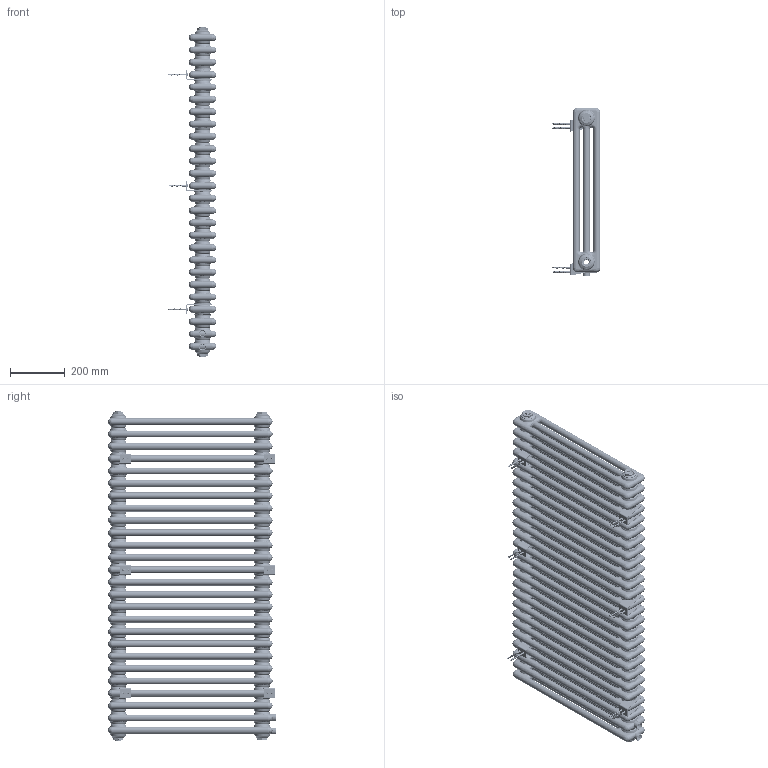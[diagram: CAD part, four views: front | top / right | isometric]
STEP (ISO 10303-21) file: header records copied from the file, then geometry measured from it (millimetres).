
FILE_DESCRIPTION(/* description */ (''),/* implementation_level */ '2;1');
FILE_NAME(/* name */ 'CL03 600x1190',/* time_stamp */ '2023-09-10T13:25:17+08:00',/* author */ (''),/* organization */ (''),/* preprocessor_version */ 'ST-DEVELOPER v9',/* originating_system */ 'UGS - NX 4.0',/* authorisation */ '');
FILE_SCHEMA (('CONFIG_CONTROL_DESIGN'));
Length unit declared in the file: millimetre
Products named in the file (1): Admi177Fr7xk
Bounding box: 176.1 x 613 x 1204 mm (x, y, z)
Volume: 4454537.1 mm3; surface area: 7287085.2 mm2
Topology: 53 solids, 53 shells, 8219 faces, 19713 edges, 11465 vertices
Faces by surface type: bspline 2583, cylinder 1913, plane 1520, torus 1484, cone 719
Full cylindrical faces by diameter (mm): 25 x2
Entity records: 495440 total; most frequent: CARTESIAN_POINT 323694, ORIENTED_EDGE 39378, DIRECTION 31641, EDGE_CURVE 19689, AXIS2_PLACEMENT_3D 13599, VERTEX_POINT 11467, EDGE_LOOP 8508, ADVANCED_FACE 8219
